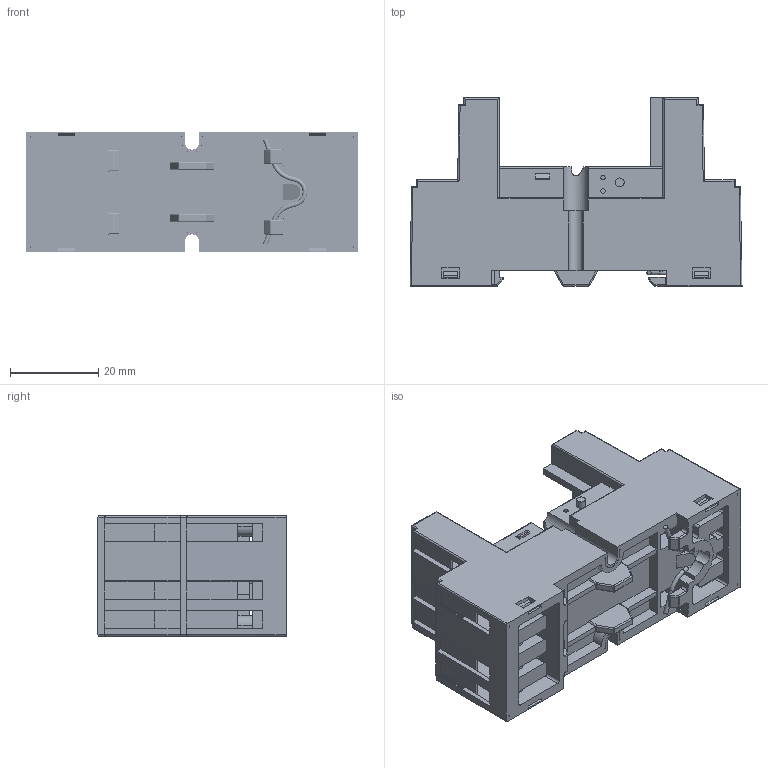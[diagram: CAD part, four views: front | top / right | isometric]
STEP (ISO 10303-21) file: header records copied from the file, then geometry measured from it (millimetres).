
FILE_DESCRIPTION(/* description */ (''),/* implementation_level */ '2;1');
FILE_NAME(/* name */ '18F-3Z-C4.stp',/* time_stamp */ '2025-09-09T15:39:35+08:00',/* author */ (''),/* organization */ (''),/* preprocessor_version */ 'ST-DEVELOPER v11',/* originating_system */ 'SIEMENS UGS NX 6.0',/* authorisation */ '');
FILE_SCHEMA (('AP203_CONFIGURATION_CONTROLLED_3D_DESIGN_OF_MECHANICAL_PARTS_AND_ASSEMBLIES_MIM_LF'));
Products named in the file (1): 18F-3Z-C4-ZP
Bounding box: 75.2 x 42.6 x 27.2 mm (x, y, z)
Surface area: 33911.9 mm2 (no closed solid volume)
Topology: 0 solids, 1 shells, 1473 faces, 4090 edges, 2631 vertices
Faces by surface type: plane 1045, cylinder 358, bspline 33, sphere 24, torus 11, cone 2
Full cylindrical faces by diameter (mm): 1 x6, 2 x13, 2.5 x110, 3 x11, 4 x2, 4.5 x1, 5.3 x11
Entity records: 71502 total; most frequent: CARTESIAN_POINT 36884, ORIENTED_EDGE 7308, DIRECTION 6768, EDGE_CURVE 3654, LINE 2920, VECTOR 2920, VERTEX_POINT 2407, AXIS2_PLACEMENT_3D 1924
